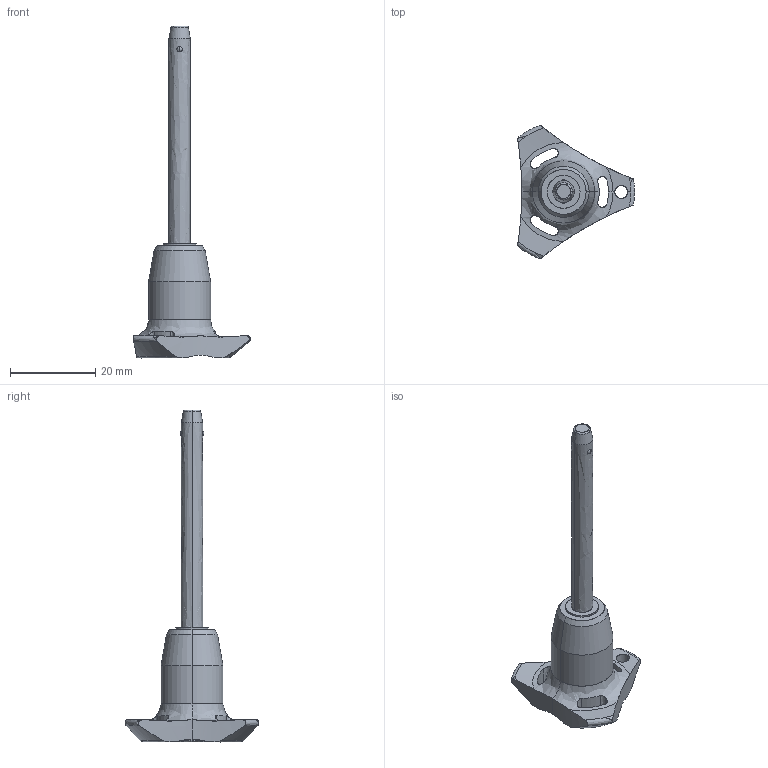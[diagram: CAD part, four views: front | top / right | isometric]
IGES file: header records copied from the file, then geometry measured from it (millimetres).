
Start section: SolidWorks IGES file using analytic representation for surfaces
Global section: file name: C:\Users\ianosborn\Desktop\QR1734_v2\QR1734_v2_20251113_IGES\QR1734.M05-045-S.igs; native system: SolidWorks 2019; preprocessor: SolidWorks 2019; author: IanOsborn; date: 251112.141335; units: millimetre
Bounding box: 27.4 x 31.31 x 77.7 mm (x, y, z)
Surface area: 3215.2 mm2 (no closed solid volume)
Topology: 0 solids, 0 shells, 66 faces, 1227 edges, 1208 vertices
Faces by surface type: revolution 50, bspline 16
